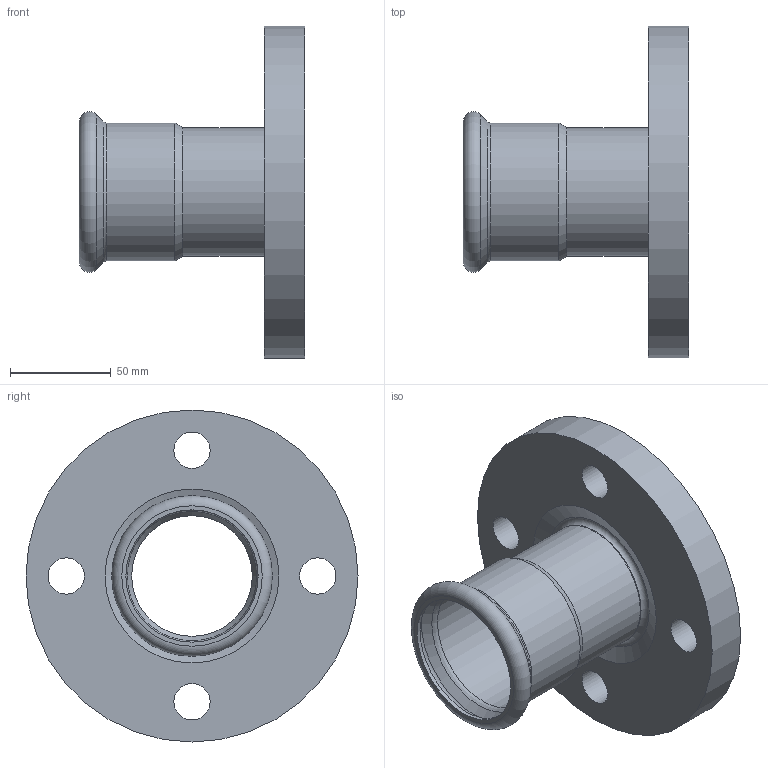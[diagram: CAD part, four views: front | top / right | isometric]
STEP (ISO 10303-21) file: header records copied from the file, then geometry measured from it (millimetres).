
FILE_DESCRIPTION((''),'2;1');
FILE_NAME('G:\Nirosan-Schmiedefeld\Technics\CAD\001 Serie 9.000\064\6VAPF64h(1).stp','2014-11-10T15:08:41',('herberg'),(''),'Autodesk Inventor 2009','Autodesk Inventor 2009','');
FILE_SCHEMA(('AUTOMOTIVE_DESIGN { 1 0 10303 214 1 1 1 1 }'));
Length unit declared in the file: millimetre
Products named in the file (3): 6VAPF64h(1); 69HMF64p(0); 69FL64125p(0)
Assembly tree (2 placements, depth 2):
  6VAPF64h(1)
    69HMF64p(0)
    69FL64125p(0)
Bounding box: 112 x 165 x 165 mm (x, y, z)
Volume: 386869.6 mm3; surface area: 95695.6 mm2
Topology: 2 solids, 2 shells, 28 faces, 57 edges, 35 vertices
Faces by surface type: cylinder 12, plane 6, cone 5, torus 3, bspline 2
Full cylindrical faces by diameter (mm): 18 x4, 60 x2, 64 x2, 64.4 x1, 65.7 x1, 68.4 x1, 165 x1
Entity records: 790 total; most frequent: CARTESIAN_POINT 185, DIRECTION 126, ORIENTED_EDGE 64, EDGE_LOOP 64, AXIS2_PLACEMENT_3D 63, FACE_BOUND 36, VERTEX_POINT 32, CIRCLE 32
